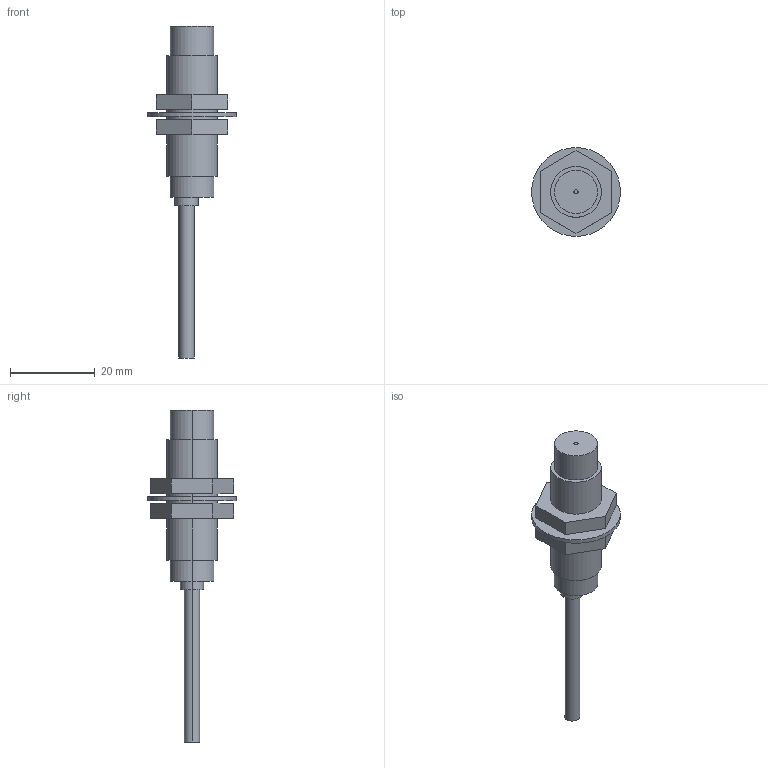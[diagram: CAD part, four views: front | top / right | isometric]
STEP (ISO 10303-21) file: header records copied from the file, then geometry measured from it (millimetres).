
FILE_DESCRIPTION (( 'STEP AP203' ), '1' );
FILE_NAME ('GX-12MLU.STEP', '2005-09-07T01:15:38', ( '' ), ( '' ), 'SwSTEP 2.0', 'SolidWorks 2004073', '' );
FILE_SCHEMA (( 'CONFIG_CONTROL_DESIGN' ));
Length unit declared in the file: millimetre
Products named in the file (1): GX-12MLU
Bounding box: 21 x 21 x 78.5 mm (x, y, z)
Volume: 5827.4 mm3; surface area: 3925.7 mm2
Topology: 4 solids, 4 shells, 48 faces, 102 edges, 68 vertices
Faces by surface type: plane 26, cylinder 22
Entity records: 1393 total; most frequent: DIRECTION 244, CARTESIAN_POINT 219, ORIENTED_EDGE 204, EDGE_CURVE 102, AXIS2_PLACEMENT_3D 93, VERTEX_POINT 68, EDGE_LOOP 60, VECTOR 58
